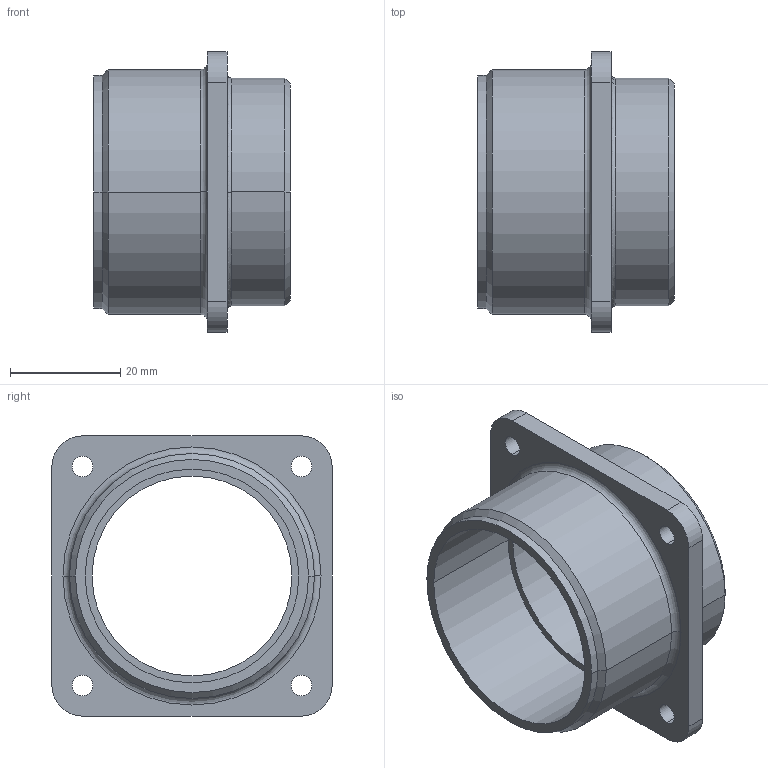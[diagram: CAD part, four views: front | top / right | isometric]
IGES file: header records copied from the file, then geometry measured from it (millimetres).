
Start section:  PTC IGES file: ms3102_28_shell.igs
Global section: file name: ms3102_28_shell.igs; native system: Creo Parametric by PTC Inc.; preprocessor: 2016260; author: t-nakamura; organization: Unknown; date: 20170605.110250; units: inch
Bounding box: 35.71 x 50.8 x 50.8 mm (x, y, z)
Surface area: 12112.5 mm2 (no closed solid volume)
Topology: 0 solids, 0 shells, 41 faces, 192 edges, 192 vertices
Faces by surface type: revolution 32, bspline 9
